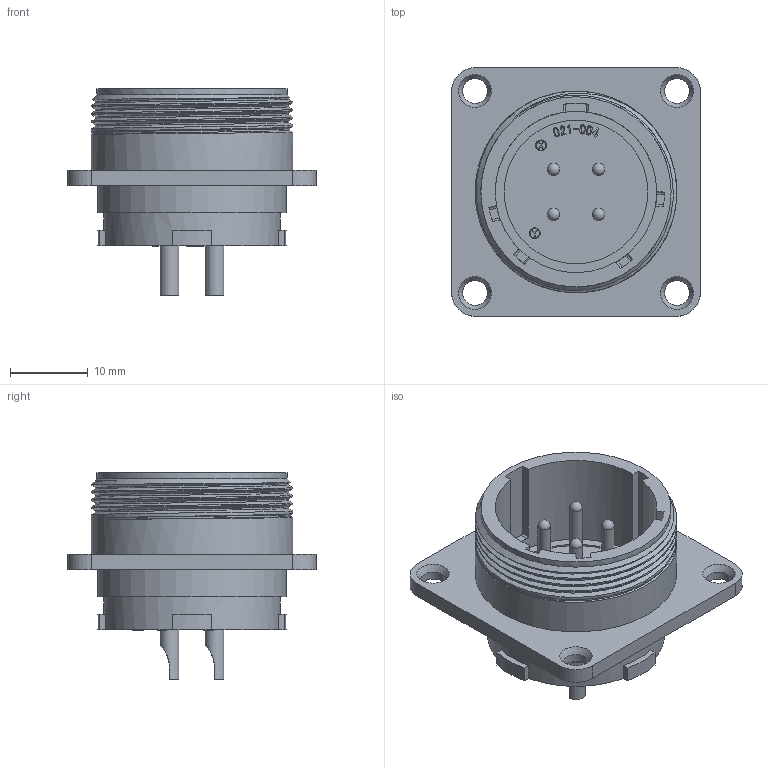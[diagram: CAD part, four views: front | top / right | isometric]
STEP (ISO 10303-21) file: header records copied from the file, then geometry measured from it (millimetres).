
FILE_DESCRIPTION (( 'STEP AP203' ), '1' );
FILE_NAME ('JMR2104M-D.STEP', '2021-06-18T01:55:20', ( '' ), ( '' ), 'SwSTEP 2.0', 'SolidWorks 2018', '' );
FILE_SCHEMA (( 'CONFIG_CONTROL_DESIGN' ));
Length unit declared in the file: millimetre
Products named in the file (1): JMR2104M-D
Bounding box: 32 x 32 x 26.6 mm (x, y, z)
Volume: 6251.9 mm3; surface area: 5533.1 mm2
Topology: 1 solids, 1 shells, 382 faces, 1035 edges, 683 vertices
Faces by surface type: plane 192, bspline 111, cylinder 65, cone 10, sphere 4
Full cylindrical faces by diameter (mm): 1.2 x3, 1.4 x3, 1.6 x4, 1.7 x4, 2.4 x4, 3.2 x4, 17 x1, 18.5 x1, 20.8 x1, 22.8 x1, 24.3 x1, 24.5 x1, 25.96 x4
Entity records: 16050 total; most frequent: CARTESIAN_POINT 7536, ORIENTED_EDGE 1900, DIRECTION 1352, EDGE_CURVE 950, VERTEX_POINT 649, LINE 582, VECTOR 582, EDGE_LOOP 459
